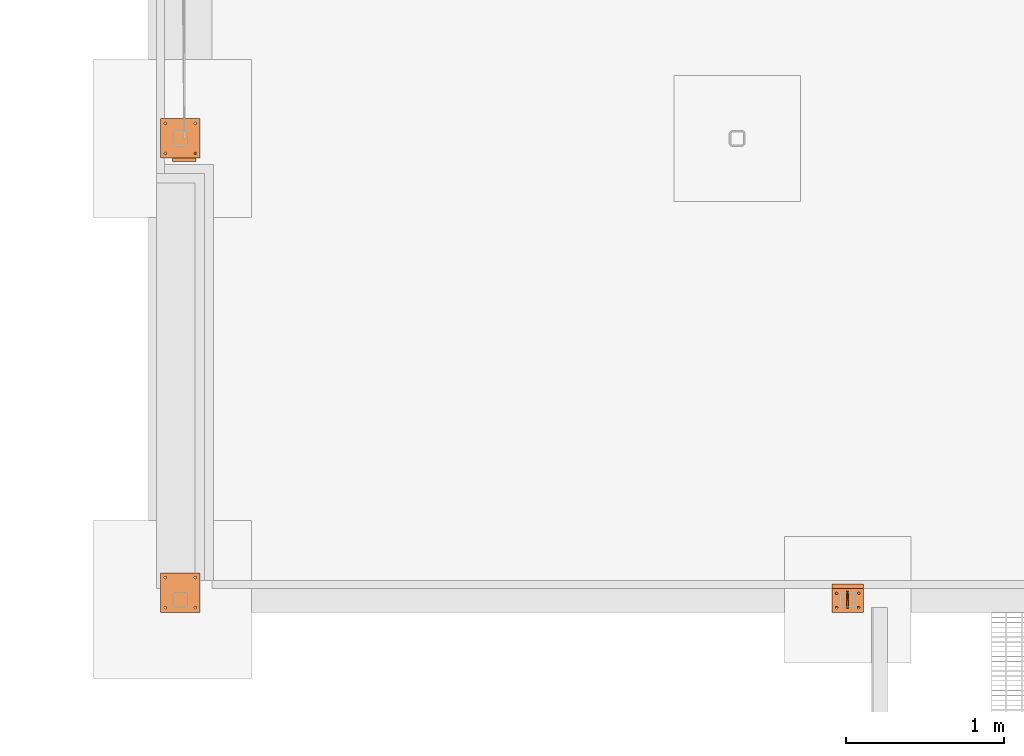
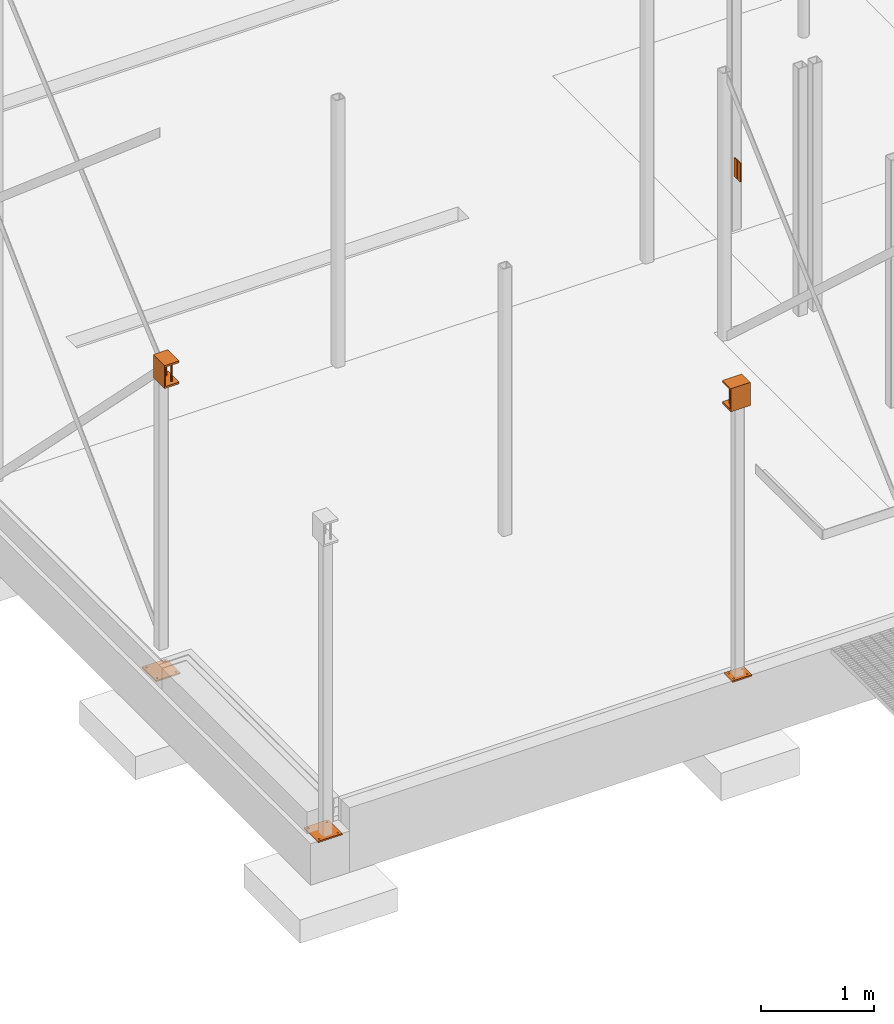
# One storey, part 15 of 18: 7 proxies.
"""IFC2X3 building model written with IfcOpenShell, lengths in millimetres."""

from ifc_helpers import new_model, entity, si_unit, converted_unit, derived_unit, direction, frame, frame_2d, origin, origin_2d_with_axis, place, context, subcontext, project, spatial, polyline, circle_curve, parameter, trimmed, segment, composite_curve, rectangle, circle, outline, extrude, source, transform, mapped, material, type_object, type_shapes, element, save


model = new_model("IFC2X3")

# Units and contexts
model_context = context("Model", 3, precision=0.01, world=origin(), true_north=direction((6.12303176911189e-17, 1.0)))
body_context = subcontext(model_context, "Body", "Model", "MODEL_VIEW")
ifc_project = project(units=[si_unit("LENGTHUNIT", "METRE", prefix="MILLI"), si_unit("AREAUNIT", "SQUARE_METRE"), si_unit("VOLUMEUNIT", "CUBIC_METRE"), converted_unit("PLANEANGLEUNIT", "DEGREE", entity("IfcRatioMeasure", 0.0174532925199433), si_unit("PLANEANGLEUNIT", "RADIAN"), dimensions=[0, 0, 0, 0, 0, 0, 0]), si_unit("MASSUNIT", "GRAM", prefix="KILO"), derived_unit("MASSDENSITYUNIT", [(si_unit("MASSUNIT", "GRAM", prefix="KILO"), 1), (si_unit("LENGTHUNIT", "METRE"), -3)]), si_unit("TIMEUNIT", "SECOND"), si_unit("FREQUENCYUNIT", "HERTZ"), si_unit("THERMODYNAMICTEMPERATUREUNIT", "DEGREE_CELSIUS"), derived_unit("THERMALTRANSMITTANCEUNIT", [(si_unit("MASSUNIT", "GRAM", prefix="KILO"), 1), (si_unit("THERMODYNAMICTEMPERATUREUNIT", "KELVIN"), -1), (si_unit("TIMEUNIT", "SECOND"), -3)]), derived_unit("VOLUMETRICFLOWRATEUNIT", [(si_unit("LENGTHUNIT", "METRE"), 3), (si_unit("TIMEUNIT", "SECOND"), -1)]), si_unit("ELECTRICCURRENTUNIT", "AMPERE"), si_unit("ELECTRICVOLTAGEUNIT", "VOLT"), si_unit("POWERUNIT", "WATT"), si_unit("FORCEUNIT", "NEWTON", prefix="KILO"), si_unit("ILLUMINANCEUNIT", "LUX"), si_unit("LUMINOUSFLUXUNIT", "LUMEN"), si_unit("LUMINOUSINTENSITYUNIT", "CANDELA"), derived_unit("USERDEFINED", [(si_unit("MASSUNIT", "GRAM", prefix="KILO"), -1), (si_unit("LENGTHUNIT", "METRE"), -2), (si_unit("TIMEUNIT", "SECOND"), 3), (si_unit("LUMINOUSFLUXUNIT", "LUMEN"), 1)]), derived_unit("LINEARVELOCITYUNIT", [(si_unit("LENGTHUNIT", "METRE"), 1), (si_unit("TIMEUNIT", "SECOND"), -1)]), si_unit("PRESSUREUNIT", "PASCAL"), derived_unit("USERDEFINED", [(si_unit("LENGTHUNIT", "METRE"), -2), (si_unit("MASSUNIT", "GRAM", prefix="KILO"), 1), (si_unit("TIMEUNIT", "SECOND"), -2)])], contexts=[model_context])

# Site, building, storey
site_placement = place(None, frame((0.0, 0.0, 101000.0)))
site = spatial("IfcSite", under=ifc_project, at=site_placement, Name="Default", CompositionType="ELEMENT")
building_placement = place(site_placement, origin())
building = spatial("IfcBuilding", under=site, at=building_placement, CompositionType="ELEMENT")
storey_placement = place(building_placement, origin())
storey = spatial("IfcBuildingStorey", under=building, at=storey_placement, Name="01", CompositionType="ELEMENT", Elevation=8.9295595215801e-10)

# Proxies
ifc_material_1 = material(Name="S355")
building_element_proxy_type_1 = type_object("IfcBuildingElementProxyType", Name="200x150", PredefinedType="NOTDEFINED", material=ifc_material_1)
shared_shape_1 = source(origin(), body_context, "Body", "SweptSolid", [
    extrude(rectangle(XDim=150.0, YDim=200.000000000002, at=frame_2d((21.6666666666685, 4.33431068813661e-12), x_axis=(1.0, 0.0))), frame((3764.59783031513, 26372.9507529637, 3130.0)), (0.0, 0.0, 1.0), 19.9999999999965),
    extrude(circle(Radius=10.0000000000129, at=origin_2d_with_axis()), frame((3811.26449698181, 26422.9507529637, 2900.0), z_axis=(0.0, 0.0, 1.0), x_axis=(-1.0, 0.0, 0.0)), (0.0, 0.0, 1.0), 250.000000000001),
    extrude(circle(Radius=10.0000000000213, at=origin_2d_with_axis()), frame((3811.26449698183, 26322.9507529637, 2900.0), z_axis=(0.0, 0.0, 1.0), x_axis=(-1.0, 0.0, 0.0)), (0.0, 0.0, 1.0), 250.000000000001),
    extrude(rectangle(XDim=199.999999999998, YDim=9.99999999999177, at=frame_2d((0.0, 2.70450328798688e-13), x_axis=(1.0, 0.0))), frame((3716.2644969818, 26372.9507529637, 2920.0), z_axis=(0.0, 0.0, 1.0), x_axis=(0.0, -1.0, 0.0)), (0.0, 0.0, 1.0), 209.99999999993),
    extrude(rectangle(XDim=150.0, YDim=200.000000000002, at=frame_2d((-2.70006239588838e-13, 0.0), x_axis=(1.0, 0.0))), frame((3786.2644969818, 26372.9507529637, 2900.0)), (0.0, 0.0, 1.0), 20.0000000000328),
])
type_shapes(building_element_proxy_type_1, [shared_shape_1])
proxy_1_placement = place(storey_placement, origin())
element("IfcBuildingElementProxy", 1, at=proxy_1_placement, inside=storey, type_object=building_element_proxy_type_1, material=ifc_material_1, Name="Innstøpningsplate mk.3:200x150", ObjectType="200x150", context=body_context, shape_type="MappedRepresentation", body=[
    mapped(shared_shape_1, transform((0.0, 0.0, 0.0), scale=1.0)),
])
building_element_proxy_type_2 = type_object("IfcBuildingElementProxyType", Name="200x150", PredefinedType="NOTDEFINED", material=ifc_material_1)
shared_shape_2 = source(origin(), body_context, "Body", "SweptSolid", [
    extrude(rectangle(XDim=150.000000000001, YDim=200.0, at=frame_2d((21.6666666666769, 0.0), x_axis=(1.0, 0.0))), frame((7986.26449698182, 23501.2840862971, 3130.0), z_axis=(0.0, 0.0, 1.0), x_axis=(0.0, 1.0, 0.0)), (0.0, 0.0, 1.0), 19.9999999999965),
    extrude(circle(Radius=10.0000000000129, at=origin_2d_with_axis()), frame((7936.26449698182, 23547.9507529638, 2900.0), z_axis=(0.0, 0.0, 1.0), x_axis=(0.0, -1.0, 0.0)), (0.0, 0.0, 1.0), 250.000000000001),
    extrude(circle(Radius=10.0000000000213, at=origin_2d_with_axis()), frame((8036.26449698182, 23547.9507529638, 2900.0), z_axis=(0.0, 0.0, 1.0), x_axis=(0.0, -1.0, 0.0)), (0.0, 0.0, 1.0), 250.000000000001),
    extrude(rectangle(XDim=200.0, YDim=9.9999999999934, at=frame_2d((1.08713038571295e-12, 0.0), x_axis=(1.0, 0.0))), frame((7986.26449698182, 23452.9507529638, 2920.0)), (0.0, 0.0, 1.0), 209.99999999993),
    extrude(rectangle(XDim=150.000000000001, YDim=200.0, at=frame_2d((-2.1600499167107e-12, 0.0), x_axis=(1.0, 0.0))), frame((7986.26449698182, 23522.9507529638, 2900.0), z_axis=(0.0, 0.0, 1.0), x_axis=(0.0, 1.0, 0.0)), (0.0, 0.0, 1.0), 20.0000000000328),
])
type_shapes(building_element_proxy_type_2, [shared_shape_2])
proxy_2_placement = place(storey_placement, origin())
element("IfcBuildingElementProxy", 2, at=proxy_2_placement, inside=storey, type_object=building_element_proxy_type_2, material=ifc_material_1, Name="Innstøpningsplate mk.3:200x150", ObjectType="200x150", context=body_context, shape_type="MappedRepresentation", body=[
    mapped(shared_shape_2, transform((0.0, 0.0, 0.0), scale=1.0)),
])
building_element_proxy_type_3 = type_object("IfcBuildingElementProxyType", Name="250x250x15", PredefinedType="NOTDEFINED", material=ifc_material_1)
shared_shape_3 = source(origin(), body_context, "Body", "SweptSolid", [
    extrude(outline(polyline([(-125.0, -125.0), (125.0, -125.0), (125.0, 125.0), (-125.0, 125.0), (-125.0, -125.0)]), holes=[composite_curve([segment(trimmed(circle_curve(frame_2d((95.0, -95.0), x_axis=(-1.0, 0.0)), 8.0), [parameter(180.0)], [parameter(360.0)], True, "PARAMETER"), False, "CONTINUOUS"), segment(trimmed(circle_curve(frame_2d((95.0, -95.0), x_axis=(-1.0, 0.0)), 8.0), [parameter(3.56222124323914e-13)], [parameter(180.0)], True, "PARAMETER"), False, "CONTINUOUS")], self_intersect=False), composite_curve([segment(trimmed(circle_curve(frame_2d((-95.0, 95.0), x_axis=(-1.0, 0.0)), 8.0), [parameter(180.0)], [parameter(360.0)], True, "PARAMETER"), False, "CONTINUOUS"), segment(trimmed(circle_curve(frame_2d((-95.0, 95.0), x_axis=(-1.0, 0.0)), 8.0), [parameter(3.56222124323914e-13)], [parameter(180.0)], True, "PARAMETER"), False, "CONTINUOUS")], self_intersect=False), composite_curve([segment(trimmed(circle_curve(frame_2d((95.0, 95.0), x_axis=(-1.0, 0.0)), 8.0), [parameter(180.0)], [parameter(359.999999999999)], True, "PARAMETER"), False, "CONTINUOUS"), segment(trimmed(circle_curve(frame_2d((95.0, 95.0), x_axis=(-1.0, 0.0)), 8.0), [parameter(360.0)], [parameter(180.0)], True, "PARAMETER"), False, "CONTINUOUS")], self_intersect=False), composite_curve([segment(trimmed(circle_curve(frame_2d((-95.0, -95.0), x_axis=(-1.0, 0.0)), 8.0), [parameter(180.0)], [parameter(360.0)], True, "PARAMETER"), False, "CONTINUOUS"), segment(trimmed(circle_curve(frame_2d((-95.0, -95.0), x_axis=(-1.0, 0.0)), 8.0), [parameter(3.56222124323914e-13)], [parameter(180.0)], True, "PARAMETER"), False, "CONTINUOUS")], self_intersect=False)]), frame((0.0, 0.0, -15.0), z_axis=(0.0, 0.0, 1.0), x_axis=(-1.0, 0.0, 0.0)), (0.0, 0.0, 1.0), 15.000000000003),
])
type_shapes(building_element_proxy_type_3, [shared_shape_3])
proxy_3_placement = place(storey_placement, frame((3761.26449698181, 26417.9507529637, -250.0)))
element("IfcBuildingElementProxy", 3, at=proxy_3_placement, inside=storey, type_object=building_element_proxy_type_3, material=ifc_material_1, Name="Innstøpningsplate_uten klør_4hull:250x250x15", ObjectType="250x250x15", context=body_context, shape_type="MappedRepresentation", body=[
    mapped(shared_shape_3, transform((0.0, 0.0, 0.0), scale=1.0)),
])
building_element_proxy_type_4 = type_object("IfcBuildingElementProxyType", Name="250x250x15", PredefinedType="NOTDEFINED", material=ifc_material_1)
shared_shape_4 = source(origin(), body_context, "Body", "SweptSolid", [
    extrude(outline(polyline([(-125.0, -125.0), (125.0, -125.0), (125.0, 125.0), (-125.0, 125.0), (-125.0, -125.0)]), holes=[composite_curve([segment(trimmed(circle_curve(frame_2d((95.0, -95.0), x_axis=(-1.0, 0.0)), 8.0), [parameter(180.0)], [parameter(360.0)], True, "PARAMETER"), False, "CONTINUOUS"), segment(trimmed(circle_curve(frame_2d((95.0, -95.0), x_axis=(-1.0, 0.0)), 8.0), [parameter(3.56222124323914e-13)], [parameter(180.0)], True, "PARAMETER"), False, "CONTINUOUS")], self_intersect=False), composite_curve([segment(trimmed(circle_curve(frame_2d((-95.0, 95.0), x_axis=(-1.0, 0.0)), 8.0), [parameter(180.0)], [parameter(360.0)], True, "PARAMETER"), False, "CONTINUOUS"), segment(trimmed(circle_curve(frame_2d((-95.0, 95.0), x_axis=(-1.0, 0.0)), 8.0), [parameter(3.56222124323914e-13)], [parameter(180.0)], True, "PARAMETER"), False, "CONTINUOUS")], self_intersect=False), composite_curve([segment(trimmed(circle_curve(frame_2d((95.0, 95.0), x_axis=(-1.0, 0.0)), 8.0), [parameter(180.0)], [parameter(359.999999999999)], True, "PARAMETER"), False, "CONTINUOUS"), segment(trimmed(circle_curve(frame_2d((95.0, 95.0), x_axis=(-1.0, 0.0)), 8.0), [parameter(360.0)], [parameter(180.0)], True, "PARAMETER"), False, "CONTINUOUS")], self_intersect=False), composite_curve([segment(trimmed(circle_curve(frame_2d((-95.0, -95.0), x_axis=(-1.0, 0.0)), 8.0), [parameter(180.0)], [parameter(360.0)], True, "PARAMETER"), False, "CONTINUOUS"), segment(trimmed(circle_curve(frame_2d((-95.0, -95.0), x_axis=(-1.0, 0.0)), 8.0), [parameter(3.56222124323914e-13)], [parameter(180.0)], True, "PARAMETER"), False, "CONTINUOUS")], self_intersect=False)]), frame((3761.26449698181, 23542.9507529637, -265.0), z_axis=(0.0, 0.0, 1.0), x_axis=(-1.0, 0.0, 0.0)), (0.0, 0.0, 1.0), 15.000000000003),
])
type_shapes(building_element_proxy_type_4, [shared_shape_4])
proxy_4_placement = place(storey_placement, origin())
element("IfcBuildingElementProxy", 4, at=proxy_4_placement, inside=storey, type_object=building_element_proxy_type_4, material=ifc_material_1, Name="Innstøpningsplate_uten klør_4hull:250x250x15", ObjectType="250x250x15", context=body_context, shape_type="MappedRepresentation", body=[
    mapped(shared_shape_4, transform((0.0, 0.0, 0.0), scale=1.0)),
])
ifc_material_2 = material(Name="Stål - S355")
building_element_proxy_type_5 = type_object("IfcBuildingElementProxyType", Name="52x203", PredefinedType="NOTDEFINED", material=ifc_material_2)
shared_shape_5 = source(origin(), body_context, "Body", "SweptSolid", [
    extrude(rectangle(XDim=10.0000000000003, YDim=202.999999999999, at=origin_2d_with_axis()), frame((0.0, 0.0, -52.0), z_axis=(0.0, 0.0, 1.0), x_axis=(-1.0, 0.0, 0.0)), (0.0, 0.0, 1.0), 52.0000000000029),
])
type_shapes(building_element_proxy_type_5, [shared_shape_5])
proxy_5_placement = place(storey_placement, frame((7986.26449698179, 23495.1507529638, 5460.0), z_axis=(0.0, 1.0, 0.0), x_axis=(-1.0, 0.0, 0.0)))
element("IfcBuildingElementProxy", 5, at=proxy_5_placement, inside=storey, type_object=building_element_proxy_type_5, material=ifc_material_2, Name="stegforsterker:52x203", ObjectType="52x203", context=body_context, shape_type="MappedRepresentation", body=[
    mapped(shared_shape_5, transform((0.0, 0.0, 0.0), scale=1.0)),
])
building_element_proxy_type_6 = type_object("IfcBuildingElementProxyType", Name="52x203", PredefinedType="NOTDEFINED", material=ifc_material_2)
shared_shape_6 = source(origin(), body_context, "Body", "SweptSolid", [
    extrude(rectangle(XDim=202.999999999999, YDim=10.0000000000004, at=frame_2d((-7.105427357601e-15, 0.0), x_axis=(1.0, 0.0))), frame((0.0, 0.0, -52.0), z_axis=(0.0, 0.0, 1.0), x_axis=(0.0, 1.0, 0.0)), (0.0, 0.0, 1.0), 52.0000000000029),
])
type_shapes(building_element_proxy_type_6, [shared_shape_6])
proxy_6_placement = place(storey_placement, frame((7986.26449698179, 23500.7507529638, 5460.0), z_axis=(0.0, -1.0, 0.0), x_axis=(-1.0, 0.0, 0.0)))
element("IfcBuildingElementProxy", 6, at=proxy_6_placement, inside=storey, type_object=building_element_proxy_type_6, material=ifc_material_2, Name="stegforsterker:52x203", ObjectType="52x203", context=body_context, shape_type="MappedRepresentation", body=[
    mapped(shared_shape_6, transform((0.0, 0.0, 0.0), scale=1.0)),
])
building_element_proxy_type_7 = type_object("IfcBuildingElementProxyType", Name="150x200x15", PredefinedType="NOTDEFINED", material=ifc_material_1)
shared_shape_7 = source(origin(), body_context, "Body", "SweptSolid", [
    extrude(outline(polyline([(-75.0, -100.0), (75.0, -100.0), (75.0, 100.0), (-75.0, 100.0), (-75.0, -100.0)]), holes=[composite_curve([segment(trimmed(circle_curve(frame_2d((45.0, -70.0), x_axis=(-1.0, 0.0)), 8.0), [parameter(180.0)], [parameter(360.0)], True, "PARAMETER"), False, "CONTINUOUS"), segment(trimmed(circle_curve(frame_2d((45.0, -70.0), x_axis=(-1.0, 0.0)), 8.0), [parameter(3.05333249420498e-13)], [parameter(180.0)], True, "PARAMETER"), False, "CONTINUOUS")], self_intersect=False), composite_curve([segment(trimmed(circle_curve(frame_2d((-45.0, 70.0), x_axis=(-1.0, 0.0)), 8.0), [parameter(180.0)], [parameter(359.999999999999)], True, "PARAMETER"), False, "CONTINUOUS"), segment(trimmed(circle_curve(frame_2d((-45.0, 70.0), x_axis=(-1.0, 0.0)), 8.0), [parameter(0.0)], [parameter(180.0)], True, "PARAMETER"), False, "CONTINUOUS")], self_intersect=False), composite_curve([segment(trimmed(circle_curve(frame_2d((45.0, 70.0), x_axis=(-1.0, 0.0)), 8.0), [parameter(180.0)], [parameter(360.0)], True, "PARAMETER"), False, "CONTINUOUS"), segment(trimmed(circle_curve(frame_2d((45.0, 70.0), x_axis=(-1.0, 0.0)), 8.0), [parameter(4.07110999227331e-13)], [parameter(180.0)], True, "PARAMETER"), False, "CONTINUOUS")], self_intersect=False), composite_curve([segment(trimmed(circle_curve(frame_2d((-45.0, -70.0), x_axis=(-1.0, 0.0)), 8.0), [parameter(180.0)], [parameter(360.0)], True, "PARAMETER"), False, "CONTINUOUS"), segment(trimmed(circle_curve(frame_2d((-45.0, -70.0), x_axis=(-1.0, 0.0)), 8.0), [parameter(3.05333249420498e-13)], [parameter(180.0)], True, "PARAMETER"), False, "CONTINUOUS")], self_intersect=False)]), frame((7986.26449698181, 23492.9507529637, -15.0), z_axis=(0.0, 0.0, 1.0), x_axis=(0.0, -1.0, 0.0)), (0.0, 0.0, 1.0), 15.000000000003),
])
type_shapes(building_element_proxy_type_7, [shared_shape_7])
proxy_7_placement = place(storey_placement, origin())
element("IfcBuildingElementProxy", 7, at=proxy_7_placement, inside=storey, type_object=building_element_proxy_type_7, material=ifc_material_1, Name="Innstøpningsplate_uten klør_4hull:150x200x15", ObjectType="150x200x15", context=body_context, shape_type="MappedRepresentation", body=[
    mapped(shared_shape_7, transform((0.0, 0.0, 0.0), scale=1.0)),
])

save(model, "model.ifc")
